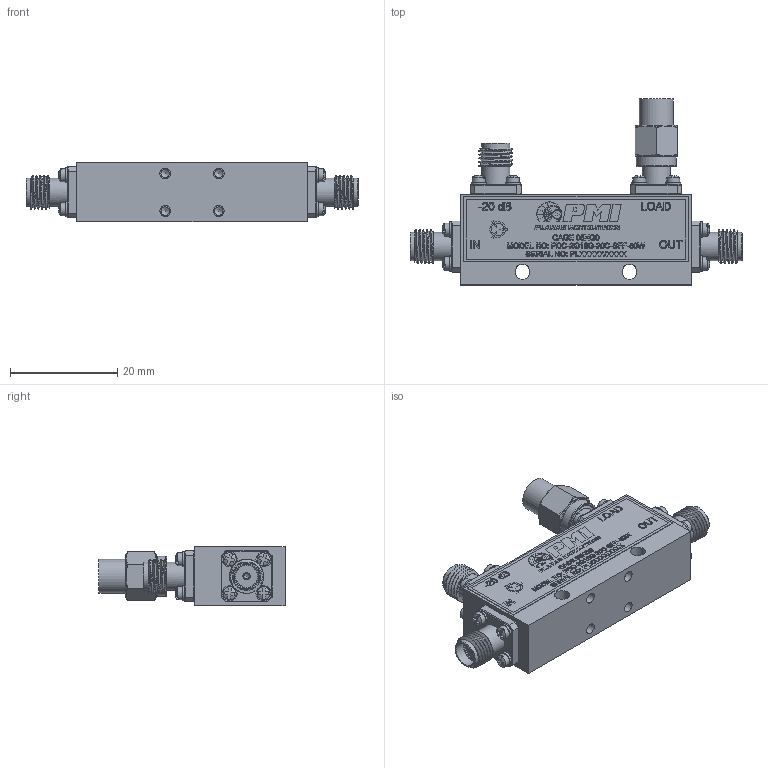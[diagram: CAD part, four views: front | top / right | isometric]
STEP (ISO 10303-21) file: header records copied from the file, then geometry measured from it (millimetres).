
FILE_DESCRIPTION (( 'STEP AP214' ), '1' );
FILE_NAME ('PDC-2G18G-20C-SFF-50W.STEP', '2026-07-01T15:06:23', ( '' ), ( '' ), 'SwSTEP 2.0', 'SolidWorks 2025', '' );
FILE_SCHEMA (( 'AUTOMOTIVE_DESIGN' ));
Length unit declared in the file: inch
Products named in the file (1): PDC-2G18G-20C-SFF-50W
Bounding box: 62.05 x 34.77 x 11.1 mm (x, y, z)
Volume: 9702.7 mm3; surface area: 7610.2 mm2
Topology: 39 solids, 39 shells, 1022 faces, 3090 edges, 2329 vertices
Faces by surface type: plane 538, cylinder 231, torus 115, sphere 56, cone 41, bspline 41
Full cylindrical faces by diameter (mm): 0.381 x4, 0.457 x4, 0.711 x4, 0.914 x1, 1.016 x4, 1.27 x4, 1.524 x16, 1.6 x4, 1.702 x16, 2 x4, 2.438 x16, 2.794 x2, 3.302 x4, 4.191 x8, 4.572 x1, 4.597 x4, 5.283 x13, 6.35 x1, 6.604 x1, 7.493 x1
Entity records: 51266 total; most frequent: CARTESIAN_POINT 15912, ORIENTED_EDGE 5546, DIRECTION 5025, EDGE_CURVE 2773, VERTEX_POINT 2281, AXIS2_PLACEMENT_3D 1812, EDGE_LOOP 1500, VECTOR 1401
